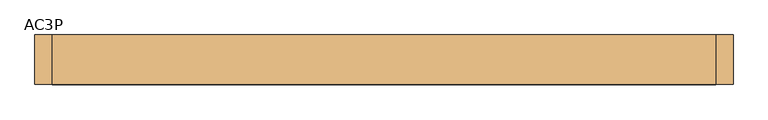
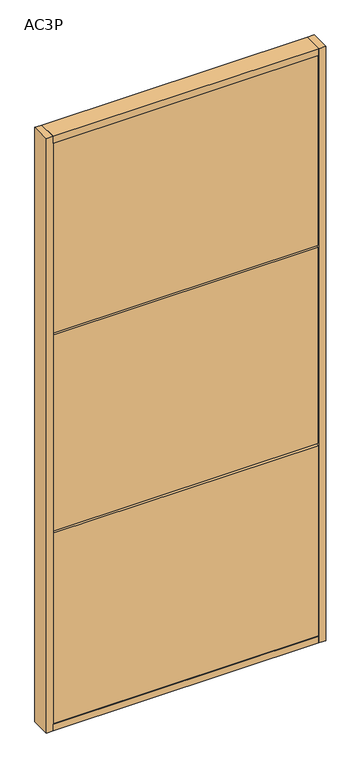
"""IFC4 building model written with IfcOpenShell, lengths in millimetres: door geometry, Mobiliário_Mobiliário de Escritório_Painel Cego - AC3P (Completo)_Marelli : AC3P."""

from ifc_helpers import new_model, si_unit, frame, origin, origin_with_axes, place, context, project, spatial, polyline, outline, extrude, source, transform, mapped, element, save


def ac3p_bc943793(model_context):
    return source(origin(), model_context, "Body", "SweptSolid", [
        extrude(outline(polyline([(570.0, 42.5), (570.0, -42.5), (-570.0, -42.5), (-570.0, 42.5), (570.0, 42.5)])), origin_with_axes(), (0.0, 0.0, 1.0), 30.0),
        extrude(outline(polyline([(570.0, 39.5), (570.0, 21.5), (-570.0, 21.5), (-570.0, 39.5), (570.0, 39.5)])), frame((0.0, 0.0, 30.0), z_axis=(0.0, 0.0, 1.0), x_axis=(1.0, 0.0, 0.0)), (0.0, 0.0, 1.0), 865.0),
        extrude(outline(polyline([(570.0, 21.5), (570.0, -21.5), (-570.0, -21.5), (-570.0, 21.5), (570.0, 21.5)])), frame((0.0, 0.0, 878.5), z_axis=(0.0, 0.0, 1.0), x_axis=(1.0, 0.0, 0.0)), (0.0, 0.0, 1.0), 43.0),
        extrude(outline(polyline([(570.0, 21.5), (570.0, -21.5), (-570.0, -21.5), (-570.0, 21.5), (570.0, 21.5)])), frame((0.0, 0.0, 1778.5), z_axis=(0.0, 0.0, 1.0), x_axis=(1.0, 0.0, 0.0)), (0.0, 0.0, 1.0), 43.0),
        extrude(outline(polyline([(570.0, -39.5), (-570.0, -39.5), (-570.0, -21.5), (570.0, -21.5), (570.0, -39.5)])), frame((0.0, 0.0, 30.0), z_axis=(0.0, 0.0, 1.0), x_axis=(1.0, 0.0, 0.0)), (0.0, 0.0, 1.0), 865.0),
        extrude(outline(polyline([(570.0, 42.5), (570.0, -42.5), (-570.0, -42.5), (-570.0, 42.5), (570.0, 42.5)])), frame((0.0, 0.0, 2670.0), z_axis=(0.0, 0.0, 1.0), x_axis=(1.0, 0.0, 0.0)), (0.0, 0.0, 1.0), 30.0),
        extrude(outline(polyline([(-600.0, -42.5), (-600.0, 42.5), (-570.0, 42.5), (-570.0, -42.5), (-600.0, -42.5)])), origin_with_axes(), (0.0, 0.0, 1.0), 2700.0),
        extrude(outline(polyline([(600.0, -42.5), (570.0, -42.5), (570.0, 42.5), (600.0, 42.5), (600.0, -42.5)])), origin_with_axes(), (0.0, 0.0, 1.0), 2700.0),
        extrude(outline(polyline([(570.0, 39.5), (570.0, 21.5), (-570.0, 21.5), (-570.0, 39.5), (570.0, 39.5)])), frame((0.0, 0.0, 905.0), z_axis=(0.0, 0.0, 1.0), x_axis=(1.0, 0.0, 0.0)), (0.0, 0.0, 1.0), 890.0),
        extrude(outline(polyline([(570.0, -39.5), (-570.0, -39.5), (-570.0, -21.5), (570.0, -21.5), (570.0, -39.5)])), frame((0.0, 0.0, 905.0), z_axis=(0.0, 0.0, 1.0), x_axis=(1.0, 0.0, 0.0)), (0.0, 0.0, 1.0), 890.0),
        extrude(outline(polyline([(570.0, 39.5), (570.0, 21.5), (-570.0, 21.5), (-570.0, 39.5), (570.0, 39.5)])), frame((0.0, 0.0, 1805.0), z_axis=(0.0, 0.0, 1.0), x_axis=(1.0, 0.0, 0.0)), (0.0, 0.0, 1.0), 865.0),
        extrude(outline(polyline([(570.0, -39.5), (-570.0, -39.5), (-570.0, -21.5), (570.0, -21.5), (570.0, -39.5)])), frame((0.0, 0.0, 1805.0), z_axis=(0.0, 0.0, 1.0), x_axis=(1.0, 0.0, 0.0)), (0.0, 0.0, 1.0), 865.0),
    ])


if __name__ == "__main__":
    model = new_model("IFC4")
    model_context = context("Model", 3, world=origin())
    ifc_project = project(units=[si_unit("LENGTHUNIT", "METRE", prefix="MILLI")], contexts=[model_context])
    site = spatial("IfcSite", under=ifc_project)
    building = spatial("IfcBuilding", under=site)
    placement = place(None, origin())
    ac3p_shape = ac3p_bc943793(model_context)
    element("IfcDoor", 1, ObjectType="Mobiliário_Mobiliário de Escritório_Painel Cego - AC3P (Completo)_Marelli : AC3P", at=placement, inside=building, context=model_context, shape_type="MappedRepresentation", body=[
        mapped(ac3p_shape, transform((0.0, 0.0, 0.0), x_axis=(1.0, 0.0, 0.0), y_axis=(0.0, 1.0, 0.0), z_axis=(0.0, 0.0, 1.0))),
    ])
    save(model, "model.ifc")
